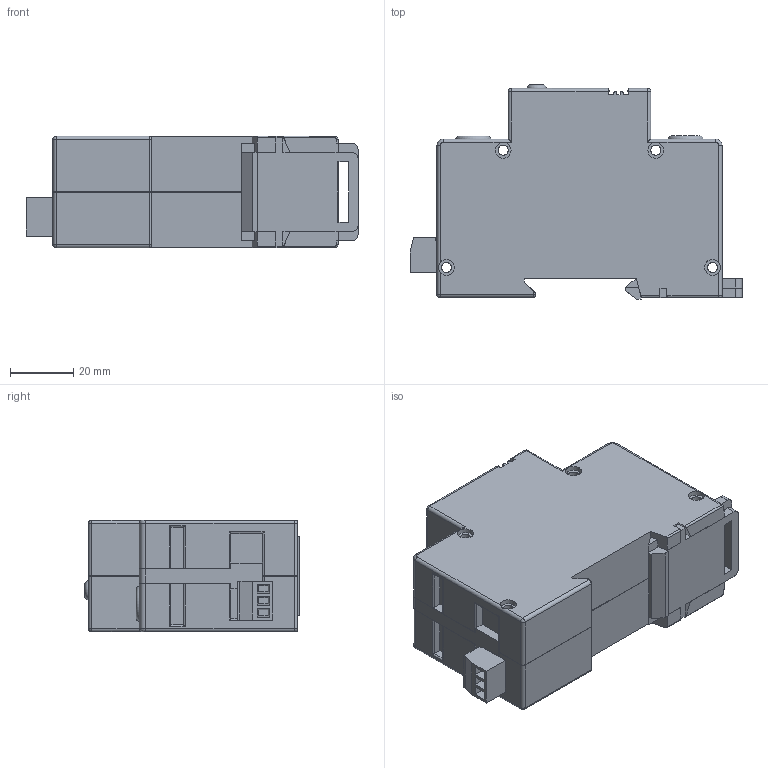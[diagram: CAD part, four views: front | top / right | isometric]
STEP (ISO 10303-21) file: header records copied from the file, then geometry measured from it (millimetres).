
FILE_DESCRIPTION(/* description */ (''),/* implementation_level */ '2;1');
FILE_NAME(/* name */ 'HLA50 1+0 S.stp',/* time_stamp */ '2024-08-02T09:26:52+02:00',/* author */ ('miko'),/* organization */ (''),/* preprocessor_version */ 'ST-DEVELOPER v20',/* originating_system */ 'Autodesk Inventor 2024',/* authorisation */ '');
FILE_SCHEMA (('AUTOMOTIVE_DESIGN { 1 0 10303 214 3 1 1 }'));
Length unit declared in the file: millimetre
Products named in the file (5): HLA50 S; HLA50 S_1; DIN 7985 (H) - M6x10-H; 15EDGK - 3.81 3P (RAL 2012); 15EDGRC - 3.81 3P (RAL 2012) (OBRÁCENÉ VÝV
ODY)
Assembly tree (5 placements, depth 2):
  HLA50 S
    HLA50 S_1
    DIN 7985 (H) - M6x10-H  x2
    15EDGK - 3.81 3P (RAL 2012)
    15EDGRC - 3.81 3P (RAL 2012) (OBRÁCENÉ VÝV
ODY)
Bounding box: 104.8 x 67.7 x 35.2 mm (x, y, z)
Volume: 175472.6 mm3; surface area: 28966.1 mm2
Topology: 5 solids, 9 shells, 683 faces, 1780 edges, 1140 vertices
Faces by surface type: plane 493, cylinder 128, cone 35, torus 11, sphere 8, bspline 8
Full cylindrical faces by diameter (mm): 0.968 x3, 1 x6, 1.9 x3, 2 x3, 2.5 x3, 3.2 x4, 5 x8, 5.5 x2, 6 x2, 8 x2
Entity records: 19870 total; most frequent: CARTESIAN_POINT 3552, ORIENTED_EDGE 3352, DIRECTION 3297, EDGE_CURVE 1676, LINE 1297, VECTOR 1297, VERTEX_POINT 1071, AXIS2_PLACEMENT_3D 1000
